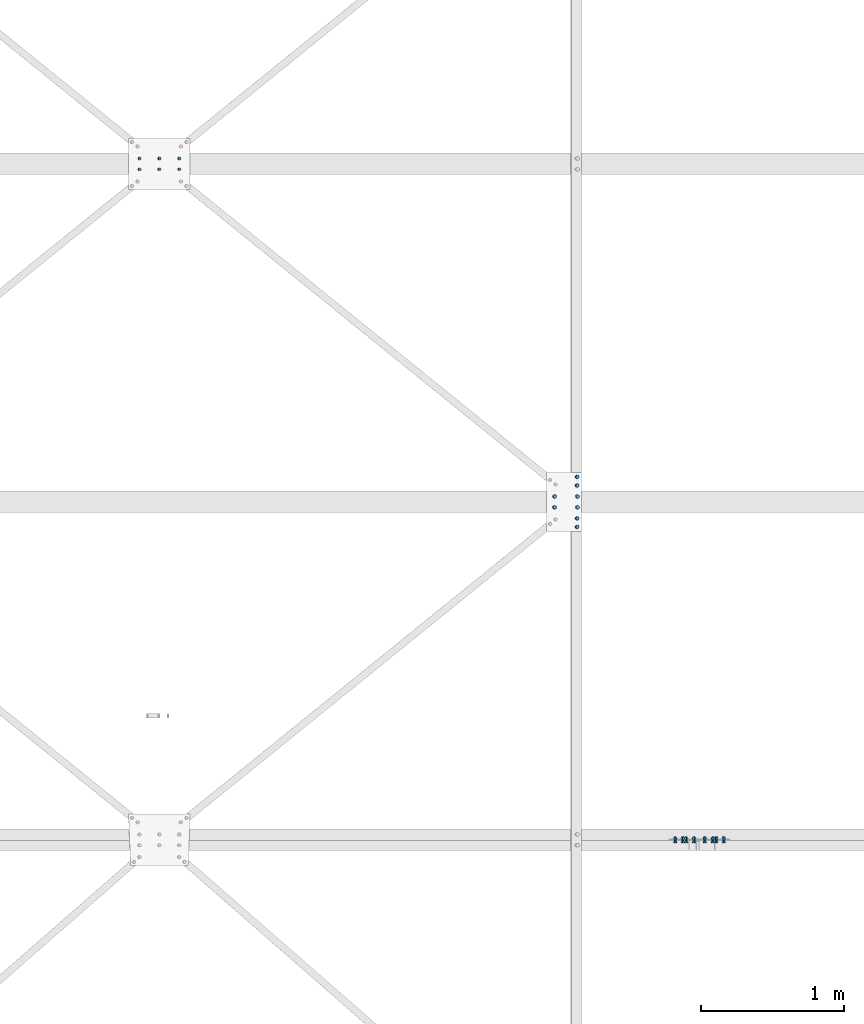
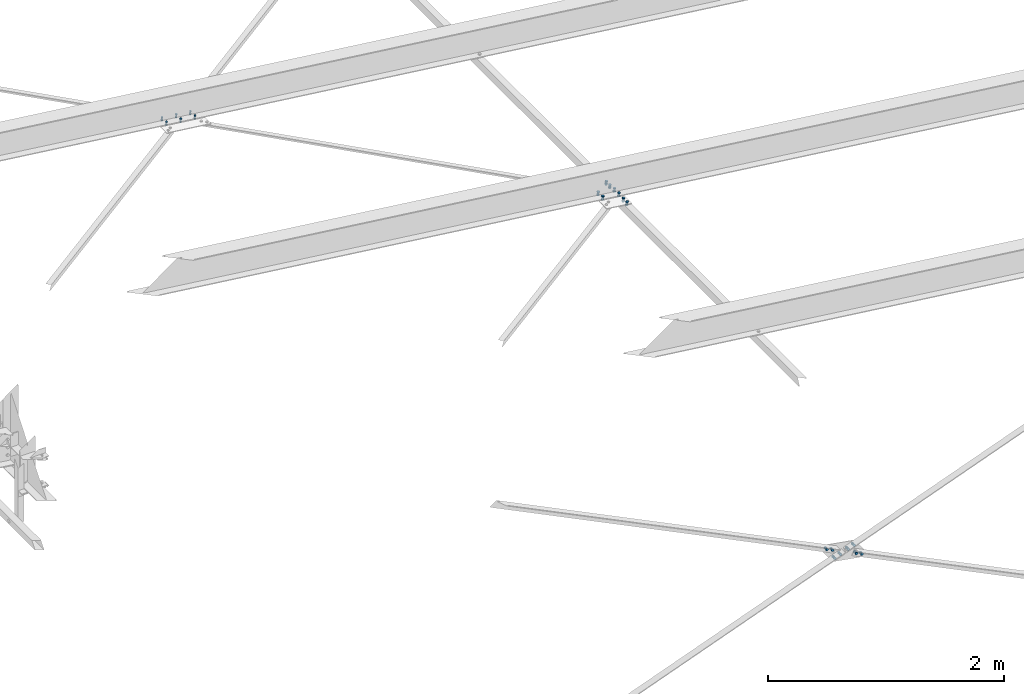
# One storey, part 128 of 3134: 8 mechanical fasteners, 7 elements without a shape of their own.
"""IFC2X3 building model written with IfcOpenShell, lengths in millimetres."""

from ifc_helpers import new_model, si_unit, frame, origin_with_axes, place, context, subcontext, project, spatial, faceted_brep, source, transform, mapped, material, type_object, element, aggregate, save


model = new_model("IFC2X3")

# Units and contexts
model_context = context("Model", 3, precision=1e-05, world=origin_with_axes())
body_context = subcontext(model_context, "Body", "Model", "MODEL_VIEW")
ifc_project = project(units=[si_unit("LENGTHUNIT", "METRE", prefix="MILLI"), si_unit("AREAUNIT", "SQUARE_METRE"), si_unit("VOLUMEUNIT", "CUBIC_METRE"), si_unit("MASSUNIT", "GRAM", prefix="KILO"), si_unit("TIMEUNIT", "SECOND"), si_unit("PLANEANGLEUNIT", "RADIAN"), si_unit("SOLIDANGLEUNIT", "STERADIAN"), si_unit("THERMODYNAMICTEMPERATUREUNIT", "DEGREE_CELSIUS"), si_unit("LUMINOUSINTENSITYUNIT", "LUMEN")], contexts=[model_context])

# Site, building, storey
site_placement = place(None, origin_with_axes())
site = spatial("IfcSite", under=ifc_project, at=site_placement, CompositionType="ELEMENT")
building_placement = place(site_placement, origin_with_axes())
building = spatial("IfcBuilding", under=site, at=building_placement, Name="Undefined", CompositionType="ELEMENT")
storey_placement = place(building_placement, origin_with_axes())
storey = spatial("IfcBuildingStorey", under=building, at=storey_placement, Name="Undefined", CompositionType="ELEMENT", Elevation=0.0)

# Assembly, mechanical fastener
assembly_1_placement = place(storey_placement, origin_with_axes())
assembly_1 = element("IfcElementAssembly", 1, at=assembly_1_placement, inside=storey, Name="300", AssemblyPlace="NOTDEFINED", PredefinedType="RIGID_FRAME")
ifc_material = material(Name="8.8")
mechanical_fastener_type = type_object("IfcMechanicalFastenerType", Name="Bolt assembly")
shared_shape_1 = source(origin_with_axes(), body_context, "Body", "Brep", [
    faceted_brep([(13.856406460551, -19.199990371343, 0.0), (6.92820323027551, -19.199990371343, 12.0), (-6.92820323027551, -19.199990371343, 12.0), (-13.856406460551, -19.199990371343, 1.69692038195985e-15), (-6.92820323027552, -19.199990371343, -12.0), (6.9282032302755, -19.199990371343, -12.0), (6.9282032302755, -9.19999037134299, -12.0), (-6.92820323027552, -9.19999037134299, -12.0), (-13.856406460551, -9.19999037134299, 1.69692038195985e-15), (-6.92820323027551, -9.19999037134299, 12.0), (6.92820323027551, -9.19999037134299, 12.0), (13.856406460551, -9.19999037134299, 0.0), (8.0, -9.19999037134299, 0.0), (6.92820323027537, -9.19999037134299, 4.00000000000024), (3.99999999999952, -9.19999037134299, 6.92820323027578), (-8.29068785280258e-13, -9.19999037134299, 8.0), (-4.00000000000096, -9.19999037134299, 6.92820323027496), (-6.9282032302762, -9.19999037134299, 3.99999999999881), (-8.0, -9.19999037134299, -1.65813757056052e-12), (-6.92820323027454, -9.19999037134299, -4.00000000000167), (-3.99999999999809, -9.19999037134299, -6.92820323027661), (2.47832457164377e-12, -9.19999037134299, -8.0), (4.00000000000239, -9.19999037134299, -6.92820323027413), (6.92820323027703, -9.19999037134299, -3.99999999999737), (6.92820323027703, 25.800009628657, -3.99999999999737), (4.00000000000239, 25.800009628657, -6.92820323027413), (2.47832457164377e-12, 25.800009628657, -8.0), (-3.99999999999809, 25.800009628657, -6.92820323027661), (-6.92820323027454, 25.800009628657, -4.00000000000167), (-8.0, 25.800009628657, -1.65813757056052e-12), (-6.9282032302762, 25.800009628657, 3.99999999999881), (-4.00000000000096, 25.800009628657, 6.92820323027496), (-8.29068785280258e-13, 25.800009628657, 8.0), (3.99999999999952, 25.800009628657, 6.92820323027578), (6.92820323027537, 25.800009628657, 4.00000000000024), (8.0, 25.800009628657, 0.0), (13.856406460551, 8.00000637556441, 0.0), (6.92820323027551, 8.00000637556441, 12.0), (-6.92820323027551, 8.00000637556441, 12.0), (-13.856406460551, 8.00000637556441, 1.69692038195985e-15), (-6.92820323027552, 8.00000637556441, -12.0), (6.9282032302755, 8.00000637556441, -12.0), (6.9282032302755, 21.0000063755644, -12.0), (-6.92820323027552, 21.0000063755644, -12.0), (-13.856406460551, 21.0000063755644, 1.69692038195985e-15), (-6.92820323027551, 21.0000063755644, 12.0), (6.92820323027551, 21.0000063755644, 12.0), (13.856406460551, 21.0000063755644, 0.0)], [[[0, 1, 2, 3, 4, 5]], [[6, 7, 8, 9, 10, 11]], [[0, 11, 10, 1]], [[1, 10, 9, 2]], [[2, 9, 8, 3]], [[3, 8, 7, 4]], [[4, 7, 6, 5]], [[5, 6, 11, 0]], [[12, 13, 14, 15, 16, 17, 18, 19, 20, 21, 22, 23]], [[24, 25, 26, 27, 28, 29, 30, 31, 32, 33, 34, 35]], [[12, 35, 34, 13]], [[13, 34, 33, 14]], [[14, 33, 32, 15]], [[15, 32, 31, 16]], [[16, 31, 30, 17]], [[17, 30, 29, 18]], [[18, 29, 28, 19]], [[19, 28, 27, 20]], [[20, 27, 26, 21]], [[21, 26, 25, 22]], [[22, 25, 24, 23]], [[23, 24, 35, 12]], [[36, 37, 38, 39, 40, 41]], [[42, 43, 44, 45, 46, 47]], [[36, 47, 46, 37]], [[37, 46, 45, 38]], [[38, 45, 44, 39]], [[39, 44, 43, 40]], [[40, 43, 42, 41]], [[41, 42, 47, 36]]]),
    faceted_brep([(9.0, -0.1, 0.0), (7.79422863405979, -0.1, 4.50000000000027), (4.49999999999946, -0.1, 7.79422863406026), (-9.3270238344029e-13, -0.1, 9.0), (-4.50000000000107, -0.1, 7.79422863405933), (-7.79422863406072, -0.1, 4.49999999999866), (-9.0, -0.1, -1.86540476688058e-12), (-7.79422863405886, -0.1, -4.50000000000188), (-4.49999999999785, -0.1, -7.79422863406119), (2.78811514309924e-12, -0.1, -9.0), (4.50000000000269, -0.1, -7.7942286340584), (7.79422863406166, -0.1, -4.49999999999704), (7.79422863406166, 8.00000000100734, -4.49999999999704), (4.50000000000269, 8.00000000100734, -7.7942286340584), (2.78811514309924e-12, 8.00000000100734, -9.0), (-4.49999999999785, 8.00000000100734, -7.79422863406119), (-7.79422863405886, 8.00000000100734, -4.50000000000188), (-9.0, 8.00000000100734, -1.86540476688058e-12), (-7.79422863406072, 8.00000000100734, 4.49999999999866), (-4.50000000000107, 8.00000000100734, 7.79422863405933), (-9.3270238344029e-13, 8.00000000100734, 9.0), (4.49999999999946, 8.00000000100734, 7.79422863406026), (7.79422863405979, 8.00000000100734, 4.50000000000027), (9.0, 8.00000000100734, 0.0), (9.0, -9.09999037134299, 0.0), (7.79422863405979, -9.09999037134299, 4.50000000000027), (4.49999999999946, -9.09999037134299, 7.79422863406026), (-9.3270238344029e-13, -9.09999037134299, 9.0), (-4.50000000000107, -9.09999037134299, 7.79422863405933), (-7.79422863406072, -9.09999037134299, 4.49999999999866), (-9.0, -9.09999037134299, -1.86540476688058e-12), (-7.79422863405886, -9.09999037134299, -4.50000000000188), (-4.49999999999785, -9.09999037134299, -7.79422863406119), (2.78811514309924e-12, -9.09999037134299, -9.0), (4.50000000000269, -9.09999037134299, -7.7942286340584), (7.79422863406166, -9.09999037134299, -4.49999999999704), (7.79422863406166, 0.100000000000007, -4.49999999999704), (4.50000000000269, 0.100000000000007, -7.7942286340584), (2.78811514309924e-12, 0.100000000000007, -9.0), (-4.49999999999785, 0.100000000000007, -7.79422863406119), (-7.79422863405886, 0.100000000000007, -4.50000000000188), (-9.0, 0.100000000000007, -1.86540476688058e-12), (-7.79422863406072, 0.100000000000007, 4.49999999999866), (-4.50000000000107, 0.100000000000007, 7.79422863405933), (-9.3270238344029e-13, 0.100000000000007, 9.0), (4.49999999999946, 0.100000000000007, 7.79422863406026), (7.79422863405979, 0.100000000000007, 4.50000000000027), (9.0, 0.100000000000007, 0.0)], [[[0, 1, 2, 3, 4, 5, 6, 7, 8, 9, 10, 11]], [[12, 13, 14, 15, 16, 17, 18, 19, 20, 21, 22, 23]], [[0, 23, 22, 1]], [[1, 22, 21, 2]], [[2, 21, 20, 3]], [[3, 20, 19, 4]], [[4, 19, 18, 5]], [[5, 18, 17, 6]], [[6, 17, 16, 7]], [[7, 16, 15, 8]], [[8, 15, 14, 9]], [[9, 14, 13, 10]], [[10, 13, 12, 11]], [[11, 12, 23, 0]], [[24, 25, 26, 27, 28, 29, 30, 31, 32, 33, 34, 35]], [[36, 37, 38, 39, 40, 41, 42, 43, 44, 45, 46, 47]], [[24, 47, 46, 25]], [[25, 46, 45, 26]], [[26, 45, 44, 27]], [[27, 44, 43, 28]], [[28, 43, 42, 29]], [[29, 42, 41, 30]], [[30, 41, 40, 31]], [[31, 40, 39, 32]], [[32, 39, 38, 33]], [[33, 38, 37, 34]], [[34, 37, 36, 35]], [[35, 36, 47, 24]]]),
])
mechanical_fastener_1_placement = place(assembly_1_placement, frame((49958.5751064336, 9972.0, 4816.43281405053), z_axis=(-0.992623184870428, 0.0, 0.121240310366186), x_axis=(0.0, 1.0, 0.0)))
mechanical_fastener_1 = element("IfcMechanicalFastener", 2, at=mechanical_fastener_1_placement, type_object=mechanical_fastener_type, material=ifc_material, Name="Bolt assembly", NominalDiameter=16.0, NominalLength=35.0, context=body_context, shape_type="MappedRepresentation", body=[
    mapped(shared_shape_1, transform((0.0, -5.32963895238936e-10, -79.9999999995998))),
    mapped(shared_shape_1, transform((76.0, -5.32963895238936e-10, -79.9999999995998))),
    mapped(shared_shape_1, transform((0.0, 5.3114490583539e-10, 79.9999999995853))),
    mapped(shared_shape_1, transform((76.0, 5.3114490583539e-10, 79.9999999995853))),
])
aggregate(assembly_1, [mechanical_fastener_1])

# Assembly, mechanical fasteners
assembly_2_placement = place(storey_placement, origin_with_axes())
assembly_2 = element("IfcElementAssembly", 3, at=assembly_2_placement, inside=storey, Name="PL8", AssemblyPlace="NOTDEFINED", PredefinedType="RIGID_FRAME")
shared_shape_2 = source(origin_with_axes(), body_context, "Body", "Brep", [
    faceted_brep([(13.856406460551, -10.0, 0.0), (6.92820323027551, -10.0, 12.0), (-6.92820323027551, -10.0, 12.0), (-13.856406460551, -10.0, 1.69692038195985e-15), (-6.92820323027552, -10.0, -12.0), (6.9282032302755, -10.0, -12.0), (6.9282032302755, 0.0, -12.0), (-6.92820323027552, 0.0, -12.0), (-13.856406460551, 0.0, 1.69692038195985e-15), (-6.92820323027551, 0.0, 12.0), (6.92820323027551, 0.0, 12.0), (13.856406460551, 0.0, 0.0), (8.0, 0.0, 0.0), (6.92820323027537, 0.0, 4.00000000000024), (3.99999999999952, 0.0, 6.92820323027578), (-8.29068785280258e-13, 0.0, 8.0), (-4.00000000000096, 0.0, 6.92820323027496), (-6.9282032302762, 0.0, 3.99999999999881), (-8.0, 0.0, -1.65813757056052e-12), (-6.92820323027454, 0.0, -4.00000000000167), (-3.99999999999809, 0.0, -6.92820323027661), (2.47832457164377e-12, 0.0, -8.0), (4.00000000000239, 0.0, -6.92820323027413), (6.92820323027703, 0.0, -3.99999999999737), (6.92820323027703, 35.0000000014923, -3.99999999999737), (4.00000000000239, 35.0000000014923, -6.92820323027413), (2.47832457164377e-12, 35.0000000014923, -8.0), (-3.99999999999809, 35.0000000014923, -6.92820323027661), (-6.92820323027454, 35.0000000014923, -4.00000000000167), (-8.0, 35.0000000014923, -1.65813757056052e-12), (-6.9282032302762, 35.0000000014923, 3.99999999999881), (-4.00000000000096, 35.0000000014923, 6.92820323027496), (-8.29068785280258e-13, 35.0000000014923, 8.0), (3.99999999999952, 35.0000000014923, 6.92820323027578), (6.92820323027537, 35.0000000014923, 4.00000000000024), (8.0, 35.0000000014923, 0.0), (13.856406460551, 14.9999995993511, 0.0), (6.92820323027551, 14.9999995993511, 12.0), (-6.92820323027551, 14.9999995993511, 12.0), (-13.856406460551, 14.9999995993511, 1.69692038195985e-15), (-6.92820323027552, 14.9999995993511, -12.0), (6.9282032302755, 14.9999995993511, -12.0), (6.9282032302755, 27.9999995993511, -12.0), (-6.92820323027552, 27.9999995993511, -12.0), (-13.856406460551, 27.9999995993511, 1.69692038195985e-15), (-6.92820323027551, 27.9999995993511, 12.0), (6.92820323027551, 27.9999995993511, 12.0), (13.856406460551, 27.9999995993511, 0.0)], [[[0, 1, 2, 3, 4, 5]], [[6, 7, 8, 9, 10, 11]], [[0, 11, 10, 1]], [[1, 10, 9, 2]], [[2, 9, 8, 3]], [[3, 8, 7, 4]], [[4, 7, 6, 5]], [[5, 6, 11, 0]], [[12, 13, 14, 15, 16, 17, 18, 19, 20, 21, 22, 23]], [[24, 25, 26, 27, 28, 29, 30, 31, 32, 33, 34, 35]], [[12, 35, 34, 13]], [[13, 34, 33, 14]], [[14, 33, 32, 15]], [[15, 32, 31, 16]], [[16, 31, 30, 17]], [[17, 30, 29, 18]], [[18, 29, 28, 19]], [[19, 28, 27, 20]], [[20, 27, 26, 21]], [[21, 26, 25, 22]], [[22, 25, 24, 23]], [[23, 24, 35, 12]], [[36, 37, 38, 39, 40, 41]], [[42, 43, 44, 45, 46, 47]], [[36, 47, 46, 37]], [[37, 46, 45, 38]], [[38, 45, 44, 39]], [[39, 44, 43, 40]], [[40, 43, 42, 41]], [[41, 42, 47, 36]]]),
    faceted_brep([(9.0, 7.9, 0.0), (7.79422863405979, 7.9, 4.50000000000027), (4.49999999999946, 7.9, 7.79422863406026), (-9.3270238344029e-13, 7.9, 9.0), (-4.50000000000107, 7.9, 7.79422863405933), (-7.79422863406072, 7.9, 4.49999999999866), (-9.0, 7.9, -1.86540476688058e-12), (-7.79422863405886, 7.9, -4.50000000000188), (-4.49999999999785, 7.9, -7.79422863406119), (2.78811514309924e-12, 7.9, -9.0), (4.50000000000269, 7.9, -7.7942286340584), (7.79422863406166, 7.9, -4.49999999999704), (7.79422863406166, 14.9999995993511, -4.49999999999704), (4.50000000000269, 14.9999995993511, -7.7942286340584), (2.78811514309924e-12, 14.9999995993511, -9.0), (-4.49999999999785, 14.9999995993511, -7.79422863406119), (-7.79422863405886, 14.9999995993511, -4.50000000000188), (-9.0, 14.9999995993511, -1.86540476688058e-12), (-7.79422863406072, 14.9999995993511, 4.49999999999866), (-4.50000000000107, 14.9999995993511, 7.79422863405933), (-9.3270238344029e-13, 14.9999995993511, 9.0), (4.49999999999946, 14.9999995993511, 7.79422863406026), (7.79422863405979, 14.9999995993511, 4.50000000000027), (9.0, 14.9999995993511, 0.0), (9.0, 0.100000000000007, 0.0), (7.79422863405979, 0.100000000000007, 4.50000000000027), (4.49999999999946, 0.100000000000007, 7.79422863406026), (-9.3270238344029e-13, 0.100000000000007, 9.0), (-4.50000000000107, 0.100000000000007, 7.79422863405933), (-7.79422863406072, 0.100000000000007, 4.49999999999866), (-9.0, 0.100000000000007, -1.86540476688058e-12), (-7.79422863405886, 0.100000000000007, -4.50000000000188), (-4.49999999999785, 0.100000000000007, -7.79422863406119), (2.78811514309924e-12, 0.100000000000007, -9.0), (4.50000000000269, 0.100000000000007, -7.7942286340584), (7.79422863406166, 0.100000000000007, -4.49999999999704), (7.79422863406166, 8.1, -4.49999999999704), (4.50000000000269, 8.1, -7.7942286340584), (2.78811514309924e-12, 8.1, -9.0), (-4.49999999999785, 8.1, -7.79422863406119), (-7.79422863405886, 8.1, -4.50000000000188), (-9.0, 8.1, -1.86540476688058e-12), (-7.79422863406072, 8.1, 4.49999999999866), (-4.50000000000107, 8.1, 7.79422863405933), (-9.3270238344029e-13, 8.1, 9.0), (4.49999999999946, 8.1, 7.79422863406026), (7.79422863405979, 8.1, 4.50000000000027), (9.0, 8.1, 0.0)], [[[0, 1, 2, 3, 4, 5, 6, 7, 8, 9, 10, 11]], [[12, 13, 14, 15, 16, 17, 18, 19, 20, 21, 22, 23]], [[0, 23, 22, 1]], [[1, 22, 21, 2]], [[2, 21, 20, 3]], [[3, 20, 19, 4]], [[4, 19, 18, 5]], [[5, 18, 17, 6]], [[6, 17, 16, 7]], [[7, 16, 15, 8]], [[8, 15, 14, 9]], [[9, 14, 13, 10]], [[10, 13, 12, 11]], [[11, 12, 23, 0]], [[24, 25, 26, 27, 28, 29, 30, 31, 32, 33, 34, 35]], [[36, 37, 38, 39, 40, 41, 42, 43, 44, 45, 46, 47]], [[24, 47, 46, 25]], [[25, 46, 45, 26]], [[26, 45, 44, 27]], [[27, 44, 43, 28]], [[28, 43, 42, 29]], [[29, 42, 41, 30]], [[30, 41, 40, 31]], [[31, 40, 39, 32]], [[32, 39, 38, 33]], [[33, 38, 37, 34]], [[34, 37, 36, 35]], [[35, 36, 47, 24]]]),
])
mechanical_fastener_2_placement = place(assembly_2_placement, frame((50037.9849612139, 9894.99999999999, 4806.73358922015), z_axis=(0.992623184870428, 0.0, -0.121240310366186), x_axis=(0.0, -1.0, 0.0)))
mechanical_fastener_2 = element("IfcMechanicalFastener", 4, at=mechanical_fastener_2_placement, type_object=mechanical_fastener_type, material=ifc_material, Name="Bolt assembly", NominalDiameter=16.0, NominalLength=35.0, context=body_context, shape_type="MappedRepresentation", body=[
    mapped(shared_shape_2, transform((0.0, 0.0, 0.0))),
    mapped(shared_shape_2, transform((59.9999999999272, 0.0, 5.40239852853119e-10))),
])
mechanical_fastener_3_placement = place(assembly_2_placement, frame((50037.9849612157, 10185.0, 4806.73358921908), z_axis=(0.992623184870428, 0.0, -0.121240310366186), x_axis=(0.0, -1.0, 0.0)))
mechanical_fastener_3 = element("IfcMechanicalFastener", 5, at=mechanical_fastener_3_placement, type_object=mechanical_fastener_type, material=ifc_material, Name="Bolt assembly", NominalDiameter=16.0, NominalLength=35.0, context=body_context, shape_type="MappedRepresentation", body=[
    mapped(shared_shape_2, transform((0.0, 0.0, 0.0))),
    mapped(shared_shape_2, transform((59.9999999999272, 0.0, 5.40239852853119e-10))),
])
aggregate(assembly_2, [mechanical_fastener_2, mechanical_fastener_3])

# Assembly, mechanical fastener
assembly_3_placement = place(storey_placement, origin_with_axes())
assembly_3 = element("IfcElementAssembly", 6, at=assembly_3_placement, inside=storey, Name="300", AssemblyPlace="NOTDEFINED", PredefinedType="RIGID_FRAME")
shared_shape_3 = source(origin_with_axes(), body_context, "Body", "Brep", [
    faceted_brep([(10.9696551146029, -17.1999998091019, 0.0), (5.48482755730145, -17.1999998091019, 9.5), (-5.48482755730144, -17.1999998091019, 9.5), (-10.9696551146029, -17.1999998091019, 1.34339530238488e-15), (-5.48482755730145, -17.1999998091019, -9.5), (5.48482755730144, -17.1999998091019, -9.50000000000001), (5.48482755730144, -9.19999978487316, -9.50000000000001), (-5.48482755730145, -9.19999978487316, -9.5), (-10.9696551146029, -9.19999978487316, 1.34339530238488e-15), (-5.48482755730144, -9.19999978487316, 9.5), (5.48482755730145, -9.19999978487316, 9.5), (10.9696551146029, -9.19999978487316, 0.0), (6.0, -9.19999978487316, 0.0), (5.19615242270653, -9.19999978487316, 3.00000000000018), (2.99999999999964, -9.19999978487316, 5.19615242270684), (-6.21801588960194e-13, -9.19999978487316, 6.0), (-3.00000000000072, -9.19999978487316, 5.19615242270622), (-5.19615242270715, -9.19999978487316, 2.9999999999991), (-6.0, -9.19999978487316, -1.24360317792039e-12), (-5.19615242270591, -9.19999978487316, -3.00000000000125), (-2.99999999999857, -9.19999978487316, -5.19615242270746), (1.85874342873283e-12, -9.19999978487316, -6.0), (3.00000000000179, -9.19999978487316, -5.1961524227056), (5.19615242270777, -9.19999978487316, -2.99999999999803), (5.19615242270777, 25.8000002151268, -2.99999999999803), (3.00000000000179, 25.8000002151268, -5.1961524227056), (1.85874342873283e-12, 25.8000002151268, -6.0), (-2.99999999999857, 25.8000002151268, -5.19615242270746), (-5.19615242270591, 25.8000002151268, -3.00000000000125), (-6.0, 25.8000002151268, -1.24360317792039e-12), (-5.19615242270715, 25.8000002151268, 2.9999999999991), (-3.00000000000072, 25.8000002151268, 5.19615242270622), (-6.21801588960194e-13, 25.8000002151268, 6.0), (2.99999999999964, 25.8000002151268, 5.19615242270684), (5.19615242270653, 25.8000002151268, 3.00000000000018), (6.0, 25.8000002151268, 0.0), (10.9696551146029, 8.0, 0.0), (5.48482755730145, 8.0, 9.5), (-5.48482755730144, 8.0, 9.5), (-10.9696551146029, 8.0, 1.34339530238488e-15), (-5.48482755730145, 8.0, -9.5), (5.48482755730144, 8.0, -9.50000000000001), (5.48482755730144, 18.0, -9.50000000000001), (-5.48482755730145, 18.0, -9.5), (-10.9696551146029, 18.0, 1.34339530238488e-15), (-5.48482755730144, 18.0, 9.5), (5.48482755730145, 18.0, 9.5), (10.9696551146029, 18.0, 0.0)], [[[0, 1, 2, 3, 4, 5]], [[6, 7, 8, 9, 10, 11]], [[0, 11, 10, 1]], [[1, 10, 9, 2]], [[2, 9, 8, 3]], [[3, 8, 7, 4]], [[4, 7, 6, 5]], [[5, 6, 11, 0]], [[12, 13, 14, 15, 16, 17, 18, 19, 20, 21, 22, 23]], [[24, 25, 26, 27, 28, 29, 30, 31, 32, 33, 34, 35]], [[12, 35, 34, 13]], [[13, 34, 33, 14]], [[14, 33, 32, 15]], [[15, 32, 31, 16]], [[16, 31, 30, 17]], [[17, 30, 29, 18]], [[18, 29, 28, 19]], [[19, 28, 27, 20]], [[20, 27, 26, 21]], [[21, 26, 25, 22]], [[22, 25, 24, 23]], [[23, 24, 35, 12]], [[36, 37, 38, 39, 40, 41]], [[42, 43, 44, 45, 46, 47]], [[36, 47, 46, 37]], [[37, 46, 45, 38]], [[38, 45, 44, 39]], [[39, 44, 43, 40]], [[40, 43, 42, 41]], [[41, 42, 47, 36]]]),
    faceted_brep([(7.0, -0.1, 0.0), (6.06217782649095, -0.1, 3.50000000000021), (3.49999999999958, -0.1, 6.06217782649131), (-7.25435187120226e-13, -0.1, 7.0), (-3.50000000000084, -0.1, 6.06217782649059), (-6.06217782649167, -0.1, 3.49999999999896), (-7.0, -0.1, -1.45087037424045e-12), (-6.06217782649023, -0.1, -3.50000000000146), (-3.49999999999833, -0.1, -6.06217782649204), (2.1685340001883e-12, -0.1, -7.0), (3.50000000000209, -0.1, -6.06217782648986), (6.0621778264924, -0.1, -3.4999999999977), (6.0621778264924, 8.0000000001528, -3.4999999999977), (3.50000000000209, 8.0000000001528, -6.06217782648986), (2.1685340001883e-12, 8.0000000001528, -7.0), (-3.49999999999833, 8.0000000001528, -6.06217782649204), (-6.06217782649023, 8.0000000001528, -3.50000000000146), (-7.0, 8.0000000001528, -1.45087037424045e-12), (-6.06217782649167, 8.0000000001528, 3.49999999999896), (-3.50000000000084, 8.0000000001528, 6.06217782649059), (-7.25435187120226e-13, 8.0000000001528, 7.0), (3.49999999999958, 8.0000000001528, 6.06217782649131), (6.06217782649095, 8.0000000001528, 3.50000000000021), (7.0, 8.0000000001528, 0.0), (7.0, -9.09999980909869, 0.0), (6.06217782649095, -9.09999980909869, 3.50000000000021), (3.49999999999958, -9.09999980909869, 6.06217782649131), (-7.25435187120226e-13, -9.09999980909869, 7.0), (-3.50000000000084, -9.09999980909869, 6.06217782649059), (-6.06217782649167, -9.09999980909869, 3.49999999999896), (-7.0, -9.09999980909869, -1.45087037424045e-12), (-6.06217782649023, -9.09999980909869, -3.50000000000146), (-3.49999999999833, -9.09999980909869, -6.06217782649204), (2.1685340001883e-12, -9.09999980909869, -7.0), (3.50000000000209, -9.09999980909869, -6.06217782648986), (6.0621778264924, -9.09999980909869, -3.4999999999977), (6.0621778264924, 0.0999999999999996, -3.4999999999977), (3.50000000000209, 0.0999999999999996, -6.06217782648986), (2.1685340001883e-12, 0.0999999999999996, -7.0), (-3.49999999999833, 0.0999999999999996, -6.06217782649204), (-6.06217782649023, 0.0999999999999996, -3.50000000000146), (-7.0, 0.0999999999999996, -1.45087037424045e-12), (-6.06217782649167, 0.0999999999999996, 3.49999999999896), (-3.50000000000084, 0.0999999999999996, 6.06217782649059), (-7.25435187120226e-13, 0.0999999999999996, 7.0), (3.49999999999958, 0.0999999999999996, 6.06217782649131), (6.06217782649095, 0.0999999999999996, 3.50000000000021), (7.0, 0.0999999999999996, 0.0)], [[[0, 1, 2, 3, 4, 5, 6, 7, 8, 9, 10, 11]], [[12, 13, 14, 15, 16, 17, 18, 19, 20, 21, 22, 23]], [[0, 23, 22, 1]], [[1, 22, 21, 2]], [[2, 21, 20, 3]], [[3, 20, 19, 4]], [[4, 19, 18, 5]], [[5, 18, 17, 6]], [[6, 17, 16, 7]], [[7, 16, 15, 8]], [[8, 15, 14, 9]], [[9, 14, 13, 10]], [[10, 13, 12, 11]], [[11, 12, 23, 0]], [[24, 25, 26, 27, 28, 29, 30, 31, 32, 33, 34, 35]], [[36, 37, 38, 39, 40, 41, 42, 43, 44, 45, 46, 47]], [[24, 47, 46, 25]], [[25, 46, 45, 26]], [[26, 45, 44, 27]], [[27, 44, 43, 28]], [[28, 43, 42, 29]], [[29, 42, 41, 30]], [[30, 41, 40, 31]], [[31, 40, 39, 32]], [[32, 39, 38, 33]], [[33, 38, 37, 34]], [[34, 37, 36, 35]], [[35, 36, 47, 24]]]),
])
mechanical_fastener_4_placement = place(assembly_3_placement, frame((47258.2022067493, 12370.0, 5146.259936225), z_axis=(0.0, -1.0, 0.0), x_axis=(-0.992623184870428, 0.0, 0.121240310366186)))
mechanical_fastener_4 = element("IfcMechanicalFastener", 7, at=mechanical_fastener_4_placement, type_object=mechanical_fastener_type, material=ifc_material, Name="Bolt assembly", NominalDiameter=12.0, NominalLength=35.0, context=body_context, shape_type="MappedRepresentation", body=[
    mapped(shared_shape_3, transform((0.0, 0.0, -38.0))),
    mapped(shared_shape_3, transform((140.000000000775, 5.85714587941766e-10, -38.0))),
    mapped(shared_shape_3, transform((279.999999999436, -4.74756234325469e-10, -38.0))),
    mapped(shared_shape_3, transform((0.0, 0.0, 38.0))),
    mapped(shared_shape_3, transform((140.000000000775, 5.85714587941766e-10, 38.0))),
    mapped(shared_shape_3, transform((279.999999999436, -4.74756234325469e-10, 38.0))),
])
aggregate(assembly_3, [mechanical_fastener_4])

assembly_4_placement = place(storey_placement, origin_with_axes())
assembly_4 = element("IfcElementAssembly", 8, at=assembly_4_placement, inside=storey, AssemblyPlace="NOTDEFINED", PredefinedType="RIGID_FRAME")
shared_shape_4 = source(origin_with_axes(), body_context, "Body", "Brep", [
    faceted_brep([(13.856406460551, -21.0000017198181, 0.0), (6.92820323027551, -21.0000017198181, 12.0), (-6.92820323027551, -21.0000017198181, 12.0), (-13.856406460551, -21.0000017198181, 1.69692038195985e-15), (-6.92820323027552, -21.0000017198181, -12.0), (6.9282032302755, -21.0000017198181, -12.0), (6.9282032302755, -11.0000017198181, -12.0), (-6.92820323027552, -11.0000017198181, -12.0), (-13.856406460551, -11.0000017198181, 1.69692038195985e-15), (-6.92820323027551, -11.0000017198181, 12.0), (6.92820323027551, -11.0000017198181, 12.0), (13.856406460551, -11.0000017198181, 0.0), (8.0, -11.0000017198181, 0.0), (6.92820323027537, -11.0000017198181, 4.00000000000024), (3.99999999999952, -11.0000017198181, 6.92820323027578), (-8.29068785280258e-13, -11.0000017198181, 8.0), (-4.00000000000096, -11.0000017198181, 6.92820323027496), (-6.9282032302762, -11.0000017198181, 3.99999999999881), (-8.0, -11.0000017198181, -1.65813757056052e-12), (-6.92820323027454, -11.0000017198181, -4.00000000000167), (-3.99999999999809, -11.0000017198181, -6.92820323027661), (2.47832457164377e-12, -11.0000017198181, -8.0), (4.00000000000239, -11.0000017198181, -6.92820323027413), (6.92820323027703, -11.0000017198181, -3.99999999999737), (6.92820323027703, 23.9999999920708, -3.99999999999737), (4.00000000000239, 23.9999999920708, -6.92820323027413), (2.47832457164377e-12, 23.9999999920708, -8.0), (-3.99999999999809, 23.9999999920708, -6.92820323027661), (-6.92820323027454, 23.9999999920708, -4.00000000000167), (-8.0, 23.9999999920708, -1.65813757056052e-12), (-6.9282032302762, 23.9999999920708, 3.99999999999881), (-4.00000000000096, 23.9999999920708, 6.92820323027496), (-8.29068785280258e-13, 23.9999999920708, 8.0), (3.99999999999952, 23.9999999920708, 6.92820323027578), (6.92820323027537, 23.9999999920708, 4.00000000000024), (8.0, 23.9999999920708, 0.0), (13.856406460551, 3.99999999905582, 0.0), (6.92820323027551, 3.99999999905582, 12.0), (-6.92820323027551, 3.99999999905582, 12.0), (-13.856406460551, 3.99999999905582, 1.69692038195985e-15), (-6.92820323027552, 3.99999999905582, -12.0), (6.9282032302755, 3.99999999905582, -12.0), (6.9282032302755, 16.9999999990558, -12.0), (-6.92820323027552, 16.9999999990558, -12.0), (-13.856406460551, 16.9999999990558, 1.69692038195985e-15), (-6.92820323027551, 16.9999999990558, 12.0), (6.92820323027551, 16.9999999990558, 12.0), (13.856406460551, 16.9999999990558, 0.0)], [[[0, 1, 2, 3, 4, 5]], [[6, 7, 8, 9, 10, 11]], [[0, 11, 10, 1]], [[1, 10, 9, 2]], [[2, 9, 8, 3]], [[3, 8, 7, 4]], [[4, 7, 6, 5]], [[5, 6, 11, 0]], [[12, 13, 14, 15, 16, 17, 18, 19, 20, 21, 22, 23]], [[24, 25, 26, 27, 28, 29, 30, 31, 32, 33, 34, 35]], [[12, 35, 34, 13]], [[13, 34, 33, 14]], [[14, 33, 32, 15]], [[15, 32, 31, 16]], [[16, 31, 30, 17]], [[17, 30, 29, 18]], [[18, 29, 28, 19]], [[19, 28, 27, 20]], [[20, 27, 26, 21]], [[21, 26, 25, 22]], [[22, 25, 24, 23]], [[23, 24, 35, 12]], [[36, 37, 38, 39, 40, 41]], [[42, 43, 44, 45, 46, 47]], [[36, 47, 46, 37]], [[37, 46, 45, 38]], [[38, 45, 44, 39]], [[39, 44, 43, 40]], [[40, 43, 42, 41]], [[41, 42, 47, 36]]]),
    faceted_brep([(9.0, -4.10000000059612, 0.0), (7.79422863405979, -4.10000000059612, 4.50000000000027), (4.49999999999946, -4.10000000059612, 7.79422863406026), (-9.3270238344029e-13, -4.10000000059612, 9.0), (-4.50000000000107, -4.10000000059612, 7.79422863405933), (-7.79422863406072, -4.10000000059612, 4.49999999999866), (-9.0, -4.10000000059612, -1.86540476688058e-12), (-7.79422863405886, -4.10000000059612, -4.50000000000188), (-4.49999999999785, -4.10000000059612, -7.79422863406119), (2.78811514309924e-12, -4.10000000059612, -9.0), (4.50000000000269, -4.10000000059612, -7.7942286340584), (7.79422863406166, -4.10000000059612, -4.49999999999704), (7.79422863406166, 4.00000375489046, -4.49999999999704), (4.50000000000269, 4.00000375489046, -7.7942286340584), (2.78811514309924e-12, 4.00000375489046, -9.0), (-4.49999999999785, 4.00000375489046, -7.79422863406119), (-7.79422863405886, 4.00000375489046, -4.50000000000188), (-9.0, 4.00000375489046, -1.86540476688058e-12), (-7.79422863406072, 4.00000375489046, 4.49999999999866), (-4.50000000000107, 4.00000375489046, 7.79422863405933), (-9.3270238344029e-13, 4.00000375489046, 9.0), (4.49999999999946, 4.00000375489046, 7.79422863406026), (7.79422863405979, 4.00000375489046, 4.50000000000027), (9.0, 4.00000375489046, 0.0), (9.0, -10.9000017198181, 0.0), (7.79422863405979, -10.9000017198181, 4.50000000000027), (4.49999999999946, -10.9000017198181, 7.79422863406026), (-9.3270238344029e-13, -10.9000017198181, 9.0), (-4.50000000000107, -10.9000017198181, 7.79422863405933), (-7.79422863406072, -10.9000017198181, 4.49999999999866), (-9.0, -10.9000017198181, -1.86540476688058e-12), (-7.79422863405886, -10.9000017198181, -4.50000000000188), (-4.49999999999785, -10.9000017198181, -7.79422863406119), (2.78811514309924e-12, -10.9000017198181, -9.0), (4.50000000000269, -10.9000017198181, -7.7942286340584), (7.79422863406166, -10.9000017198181, -4.49999999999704), (7.79422863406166, -3.9, -4.49999999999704), (4.50000000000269, -3.9, -7.7942286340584), (2.78811514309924e-12, -3.9, -9.0), (-4.49999999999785, -3.9, -7.79422863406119), (-7.79422863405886, -3.9, -4.50000000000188), (-9.0, -3.9, -1.86540476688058e-12), (-7.79422863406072, -3.9, 4.49999999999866), (-4.50000000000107, -3.9, 7.79422863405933), (-9.3270238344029e-13, -3.9, 9.0), (4.49999999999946, -3.9, 7.79422863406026), (7.79422863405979, -3.9, 4.50000000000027), (9.0, -3.9, 0.0)], [[[0, 1, 2, 3, 4, 5, 6, 7, 8, 9, 10, 11]], [[12, 13, 14, 15, 16, 17, 18, 19, 20, 21, 22, 23]], [[0, 23, 22, 1]], [[1, 22, 21, 2]], [[2, 21, 20, 3]], [[3, 20, 19, 4]], [[4, 19, 18, 5]], [[5, 18, 17, 6]], [[6, 17, 16, 7]], [[7, 16, 15, 8]], [[8, 15, 14, 9]], [[9, 14, 13, 10]], [[10, 13, 12, 11]], [[11, 12, 23, 0]], [[24, 25, 26, 27, 28, 29, 30, 31, 32, 33, 34, 35]], [[36, 37, 38, 39, 40, 41, 42, 43, 44, 45, 46, 47]], [[24, 47, 46, 25]], [[25, 46, 45, 26]], [[26, 45, 44, 27]], [[27, 44, 43, 28]], [[28, 43, 42, 29]], [[29, 42, 41, 30]], [[30, 41, 40, 31]], [[31, 40, 39, 32]], [[32, 39, 38, 33]], [[33, 38, 37, 34]], [[34, 37, 36, 35]], [[35, 36, 47, 24]]]),
])
mechanical_fastener_5_placement = place(assembly_4_placement, frame((50720.2513193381, 7650.0, 2316.18413192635), z_axis=(0.440953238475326, 0.0, 0.897530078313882), x_axis=(0.897530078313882, 0.0, -0.440953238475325)))
mechanical_fastener_5 = element("IfcMechanicalFastener", 9, at=mechanical_fastener_5_placement, type_object=mechanical_fastener_type, material=ifc_material, Name="Bolt assembly", NominalDiameter=16.0, NominalLength=35.0, context=body_context, shape_type="MappedRepresentation", body=[
    mapped(shared_shape_4, transform((0.0, 0.0, 0.0))),
    mapped(shared_shape_4, transform((59.9999999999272, 0.0, 5.40239852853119e-10))),
])
aggregate(assembly_4, [mechanical_fastener_5])

assembly_5_placement = place(storey_placement, origin_with_axes())
assembly_5 = element("IfcElementAssembly", 10, at=assembly_5_placement, inside=storey, AssemblyPlace="NOTDEFINED", PredefinedType="RIGID_FRAME")
mechanical_fastener_6_placement = place(assembly_5_placement, frame((50928.2878097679, 7650.0, 2246.30805833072), z_axis=(-0.347632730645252, 0.0, 0.937630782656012), x_axis=(0.937630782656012, 0.0, 0.347632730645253)))
mechanical_fastener_6 = element("IfcMechanicalFastener", 11, at=mechanical_fastener_6_placement, type_object=mechanical_fastener_type, material=ifc_material, Name="Bolt assembly", NominalDiameter=16.0, NominalLength=35.0, context=body_context, shape_type="MappedRepresentation", body=[
    mapped(shared_shape_4, transform((0.0, 0.0, 0.0))),
    mapped(shared_shape_4, transform((59.9999999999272, 0.0, 5.40239852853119e-10))),
])
aggregate(assembly_5, [mechanical_fastener_6])

assembly_6_placement = place(storey_placement, origin_with_axes())
assembly_6 = element("IfcElementAssembly", 12, at=assembly_6_placement, inside=storey, AssemblyPlace="NOTDEFINED", PredefinedType="RIGID_FRAME")
mechanical_fastener_7_placement = place(assembly_6_placement, frame((50797.0189429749, 7650.0, 2197.63926944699), z_axis=(-0.347632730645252, 0.0, 0.937630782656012), x_axis=(0.937630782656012, 0.0, 0.347632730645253)))
mechanical_fastener_7 = element("IfcMechanicalFastener", 13, at=mechanical_fastener_7_placement, type_object=mechanical_fastener_type, material=ifc_material, Name="Bolt assembly", NominalDiameter=16.0, NominalLength=35.0, context=body_context, shape_type="MappedRepresentation", body=[
    mapped(shared_shape_4, transform((0.0, 0.0, 0.0))),
    mapped(shared_shape_4, transform((59.9999999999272, 0.0, 5.40239852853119e-10))),
])
aggregate(assembly_6, [mechanical_fastener_7])

assembly_7_placement = place(storey_placement, origin_with_axes())
assembly_7 = element("IfcElementAssembly", 14, at=assembly_7_placement, inside=storey, AssemblyPlace="NOTDEFINED", PredefinedType="RIGID_FRAME")
mechanical_fastener_8_placement = place(assembly_7_placement, frame((51007.4614887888, 7650.0, 2175.07882815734), z_axis=(0.440953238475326, 0.0, 0.897530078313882), x_axis=(0.897530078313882, 0.0, -0.440953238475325)))
mechanical_fastener_8 = element("IfcMechanicalFastener", 15, at=mechanical_fastener_8_placement, type_object=mechanical_fastener_type, material=ifc_material, Name="Bolt assembly", NominalDiameter=16.0, NominalLength=35.0, context=body_context, shape_type="MappedRepresentation", body=[
    mapped(shared_shape_4, transform((0.0, 0.0, 0.0))),
    mapped(shared_shape_4, transform((59.9999999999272, 0.0, 5.40239852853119e-10))),
])
aggregate(assembly_7, [mechanical_fastener_8])

save(model, "model.ifc")
